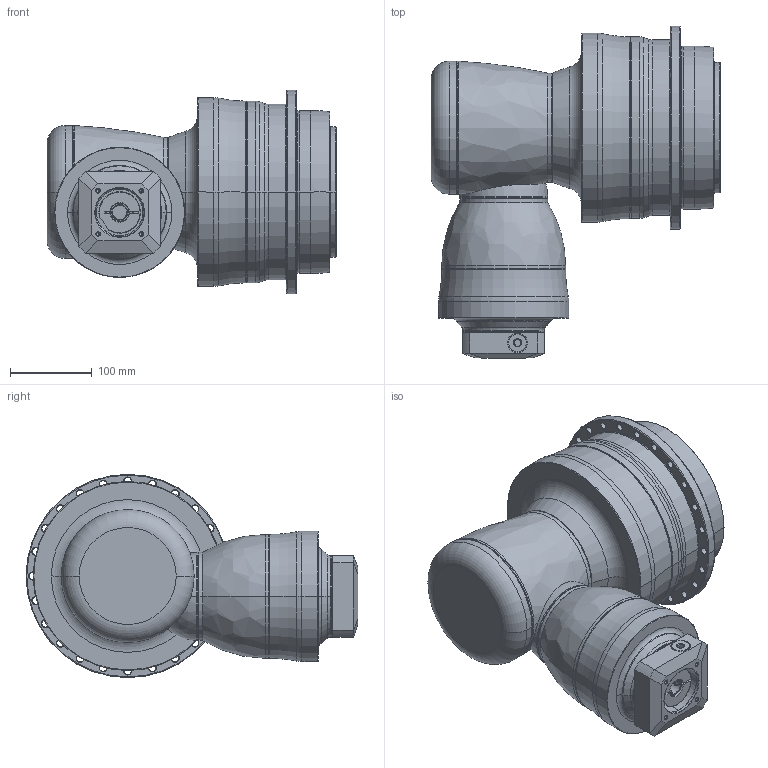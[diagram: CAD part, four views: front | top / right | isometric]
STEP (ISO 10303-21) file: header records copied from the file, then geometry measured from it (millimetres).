
FILE_DESCRIPTION((''),'2;1');
FILE_NAME('APK200_4ST_19-P0409410201_ASM','2019-06-26T',('D00280'),(''),'PRO/ENGINEER BY PARAMETRIC TECHNOLOGY CORPORATION, 2015240','PRO/ENGINEER BY PARAMETRIC TECHNOLOGY CORPORATION, 2015240','');
FILE_SCHEMA(('CONFIG_CONTROL_DESIGN'));
Length unit declared in the file: millimetre
Products named in the file (13): P1008500002; P1832600001; P0278601003; P0359601103; P1211600001; P1315500001; P1007501001; P1317501001; P0503400008; P0912400001; P0409410201; 21711416017; APK200_4ST_19-P0409410201_ASM
Assembly tree (12 placements, depth 2):
  APK200_4ST_19-P0409410201_ASM
    P1008500002
    P1832600001
    P0278601003
    P0359601103
    P1211600001
    P1315500001
    P1007501001
    P1317501001
    P0503400008
    P0912400001
    P0409410201
    21711416017
Bounding box: 355.5 x 407.25 x 249.5 mm (x, y, z)
Volume: 12582810 mm3; surface area: 910246.7 mm2
Topology: 13 solids, 38 shells, 778 faces, 1813 edges, 1091 vertices
Faces by surface type: cylinder 312, cone 224, plane 129, torus 88, bspline 23, sphere 2
Entity records: 27339 total; most frequent: CARTESIAN_POINT 8934, DIRECTION 4244, ORIENTED_EDGE 3436, AXIS2_PLACEMENT_3D 1822, EDGE_CURVE 1769, VERTEX_POINT 1091, CIRCLE 1032, EDGE_LOOP 916
